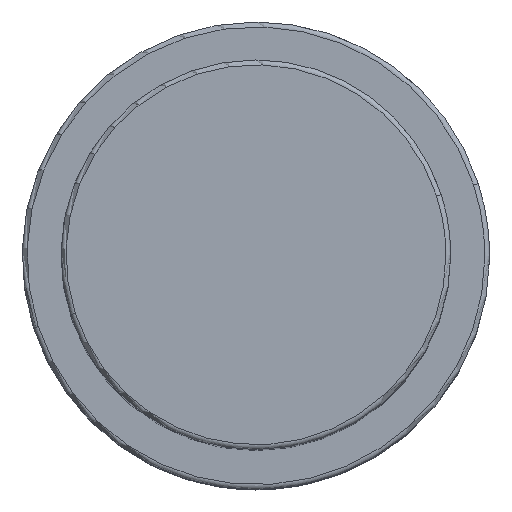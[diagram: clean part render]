
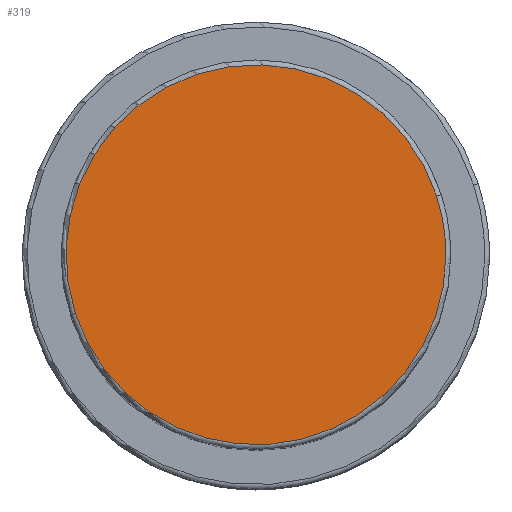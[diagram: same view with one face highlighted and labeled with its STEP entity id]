
A CAD part, top view. The second image highlights one B-rep face of the part: STEP entity #319.
In plain terms, the highlighted planar face has unit normal (0, 0, 1).
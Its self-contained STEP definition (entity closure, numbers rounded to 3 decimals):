
#285=CARTESIAN_POINT('',(19.5,0.0,73.5));
#286=VERTEX_POINT('',#285);
#287=CARTESIAN_POINT('',(18.546,6.026,73.5));
#288=VERTEX_POINT('',#287);
#289=CARTESIAN_POINT('',(0.0,0.0,73.5));
#290=DIRECTION('',(0.0,0.0,1.0));
#291=DIRECTION('',(1.0,0.0,0.0));
#292=AXIS2_PLACEMENT_3D('',#289,#290,#291);
#293=CIRCLE('',#292,19.5);
#294=EDGE_CURVE('no 833',#286,#288,#293,.T.);
#295=ORIENTED_EDGE('',*,*,#294,.T.);
#296=CARTESIAN_POINT('',(-18.546,-6.026,73.5));
#297=VERTEX_POINT('',#296);
#298=CARTESIAN_POINT('',(0.0,0.0,73.5));
#299=DIRECTION('',(0.0,0.0,1.0));
#300=DIRECTION('',(1.0,0.0,0.0));
#301=AXIS2_PLACEMENT_3D('',#298,#299,#300);
#302=CIRCLE('',#301,19.5);
#303=EDGE_CURVE('no 839',#288,#297,#302,.T.);
#304=ORIENTED_EDGE('',*,*,#303,.T.);
#305=CARTESIAN_POINT('',(0.0,0.0,73.5));
#306=DIRECTION('',(0.0,0.0,1.0));
#307=DIRECTION('',(1.0,0.0,0.0));
#308=AXIS2_PLACEMENT_3D('',#305,#306,#307);
#309=CIRCLE('',#308,19.5);
#310=EDGE_CURVE('no 843',#297,#286,#309,.T.);
#311=ORIENTED_EDGE('',*,*,#310,.T.);
#312=EDGE_LOOP('',(#295,#304,#311));
#313=FACE_OUTER_BOUND('',#312,.T.);
#314=CARTESIAN_POINT('',(0.0,0.0,73.5));
#315=DIRECTION('',(0.0,0.0,1.0));
#316=DIRECTION('',(1.0,0.0,0.0));
#317=AXIS2_PLACEMENT_3D('',#314,#315,#316);
#318=PLANE('',#317);
#319=ADVANCED_FACE('no 824',(#313),#318,.T.);
